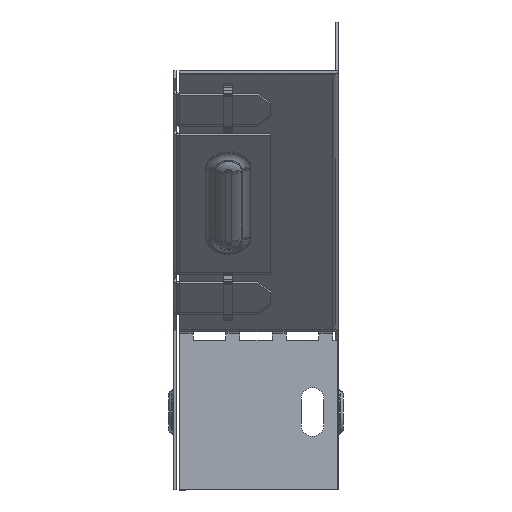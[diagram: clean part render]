
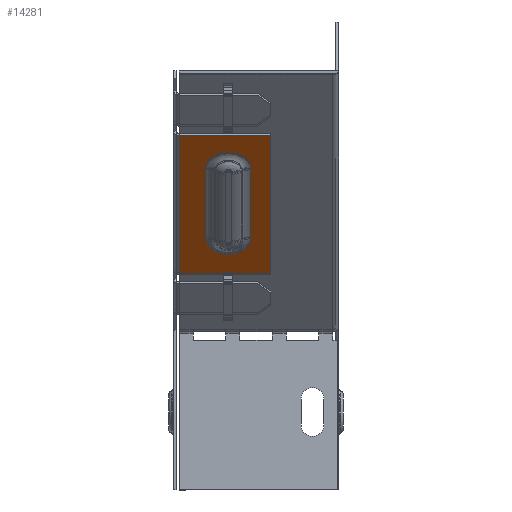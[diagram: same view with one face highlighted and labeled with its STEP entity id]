
A CAD part, left-side view. The second image highlights one B-rep face of the part: STEP entity #14281.
In plain terms, the highlighted planar face has unit normal (-0.707, 0, -0.707).
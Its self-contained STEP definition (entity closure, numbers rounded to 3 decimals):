
#31 = ORIENTED_EDGE ( 'NONE', *, *, #19255, .F. ) ;
#226 = DIRECTION ( 'NONE',  ( 0.707, 0., -0.707 ) ) ;
#727 = CARTESIAN_POINT ( 'NONE',  ( -179.993, 26.183, -66.685 ) ) ;
#842 = CARTESIAN_POINT ( 'NONE',  ( -115.837, 50., -130.841 ) ) ;
#1223 = AXIS2_PLACEMENT_3D ( 'NONE', #842, #8384, #16139 ) ;
#1293 = DIRECTION ( 'NONE',  ( 0.5, -0.707, -0.5 ) ) ;
#1309 = VECTOR ( 'NONE', #10080, 1000. ) ;
#1632 = CARTESIAN_POINT ( 'NONE',  ( -169.022, 20., -77.656 ) ) ;
#1697 = EDGE_CURVE ( 'NONE', #11239, #5078, #14681, .T. ) ;
#1997 = ORIENTED_EDGE ( 'NONE', *, *, #12135, .T. ) ;
#2144 = EDGE_CURVE ( 'NONE', #5600, #3832, #9557, .T. ) ;
#2504 = CARTESIAN_POINT ( 'NONE',  ( -211.823, 48.2, -34.855 ) ) ;
#2760 = EDGE_LOOP ( 'NONE', ( #31, #6213, #9838, #1997 ) ) ;
#2887 = LINE ( 'NONE', #1632, #18289 ) ;
#2930 = CARTESIAN_POINT ( 'NONE',  ( -169.022, 20., -77.656 ) ) ;
#3110 = LINE ( 'NONE', #4015, #11973 ) ;
#3653 = VECTOR ( 'NONE', #14755, 1000. ) ;
#3804 = VECTOR ( 'NONE', #226, 1000. ) ;
#3832 = VERTEX_POINT ( 'NONE', #15499 ) ;
#4015 = CARTESIAN_POINT ( 'NONE',  ( -115.837, 20., -130.841 ) ) ;
#4070 = EDGE_CURVE ( 'NONE', #3832, #11239, #12985, .T. ) ;
#4240 = CARTESIAN_POINT ( 'NONE',  ( -228.087, 48.2, -18.591 ) ) ;
#4346 = CARTESIAN_POINT ( 'NONE',  ( -211.823, 20., -34.855 ) ) ;
#4604 = DIRECTION ( 'NONE',  ( 0.5, -0.707, -0.5 ) ) ;
#4998 = ORIENTED_EDGE ( 'NONE', *, *, #1697, .T. ) ;
#5078 = VERTEX_POINT ( 'NONE', #13104 ) ;
#5600 = VERTEX_POINT ( 'NONE', #727 ) ;
#5647 = PLANE ( 'NONE',  #1223 ) ;
#5733 = EDGE_CURVE ( 'NONE', #7948, #13530, #3110, .T. ) ;
#5739 = AXIS2_PLACEMENT_3D ( 'NONE', #14676, #7339, #1293 ) ;
#5756 = VECTOR ( 'NONE', #11655, 1000. ) ;
#6118 = CARTESIAN_POINT ( 'NONE',  ( -201.206, 33.1, -45.472 ) ) ;
#6213 = ORIENTED_EDGE ( 'NONE', *, *, #14358, .T. ) ;
#6626 = FACE_BOUND ( 'NONE', #16899, .T. ) ;
#6756 = CARTESIAN_POINT ( 'NONE',  ( -211.823, 20., -34.855 ) ) ;
#7339 = DIRECTION ( 'NONE',  ( 0.707, 0., 0.707 ) ) ;
#7948 = VERTEX_POINT ( 'NONE', #2930 ) ;
#8384 = DIRECTION ( 'NONE',  ( 0.707, 0., 0.707 ) ) ;
#8482 = CARTESIAN_POINT ( 'NONE',  ( -179.993, 40.017, -66.685 ) ) ;
#9161 = DIRECTION ( 'NONE',  ( 0., -1., 0. ) ) ;
#9557 = CIRCLE ( 'NONE', #5739, 6.917 ) ;
#9721 = LINE ( 'NONE', #4346, #3653 ) ;
#9838 = ORIENTED_EDGE ( 'NONE', *, *, #5733, .T. ) ;
#10001 = ORIENTED_EDGE ( 'NONE', *, *, #2144, .T. ) ;
#10080 = DIRECTION ( 'NONE',  ( -0.707, 0., 0.707 ) ) ;
#11239 = VERTEX_POINT ( 'NONE', #18092 ) ;
#11505 = DIRECTION ( 'NONE',  ( -0.707, 0., 0.707 ) ) ;
#11655 = DIRECTION ( 'NONE',  ( -0.707, 0., 0.707 ) ) ;
#11973 = VECTOR ( 'NONE', #11505, 1000. ) ;
#12095 = CARTESIAN_POINT ( 'NONE',  ( -179.993, 26.183, -66.685 ) ) ;
#12135 = EDGE_CURVE ( 'NONE', #13530, #13598, #9721, .T. ) ;
#12256 = LINE ( 'NONE', #4240, #5756 ) ;
#12864 = ORIENTED_EDGE ( 'NONE', *, *, #4070, .T. ) ;
#12985 = LINE ( 'NONE', #8482, #1309 ) ;
#13104 = CARTESIAN_POINT ( 'NONE',  ( -201.206, 26.183, -45.472 ) ) ;
#13141 = LINE ( 'NONE', #12095, #3804 ) ;
#13530 = VERTEX_POINT ( 'NONE', #6756 ) ;
#13598 = VERTEX_POINT ( 'NONE', #2504 ) ;
#13621 = FACE_OUTER_BOUND ( 'NONE', #2760, .T. ) ;
#14226 = VERTEX_POINT ( 'NONE', #17437 ) ;
#14281 = ADVANCED_FACE ( 'NONE', ( #6626, #13621 ), #5647, .F. ) ;
#14358 = EDGE_CURVE ( 'NONE', #14226, #7948, #2887, .T. ) ;
#14676 = CARTESIAN_POINT ( 'NONE',  ( -179.993, 33.1, -66.685 ) ) ;
#14681 = CIRCLE ( 'NONE', #19200, 6.917 ) ;
#14755 = DIRECTION ( 'NONE',  ( 0., 1., 0. ) ) ;
#15499 = CARTESIAN_POINT ( 'NONE',  ( -179.993, 40.017, -66.685 ) ) ;
#15539 = EDGE_CURVE ( 'NONE', #5078, #5600, #13141, .T. ) ;
#16139 = DIRECTION ( 'NONE',  ( 0.707, 0., -0.707 ) ) ;
#16538 = DIRECTION ( 'NONE',  ( 0.707, 0., 0.707 ) ) ;
#16765 = ORIENTED_EDGE ( 'NONE', *, *, #15539, .T. ) ;
#16899 = EDGE_LOOP ( 'NONE', ( #16765, #10001, #12864, #4998 ) ) ;
#17437 = CARTESIAN_POINT ( 'NONE',  ( -169.022, 48.2, -77.656 ) ) ;
#18092 = CARTESIAN_POINT ( 'NONE',  ( -201.206, 40.017, -45.472 ) ) ;
#18289 = VECTOR ( 'NONE', #9161, 1000. ) ;
#19200 = AXIS2_PLACEMENT_3D ( 'NONE', #6118, #16538, #4604 ) ;
#19255 = EDGE_CURVE ( 'NONE', #14226, #13598, #12256, .T. ) ;
